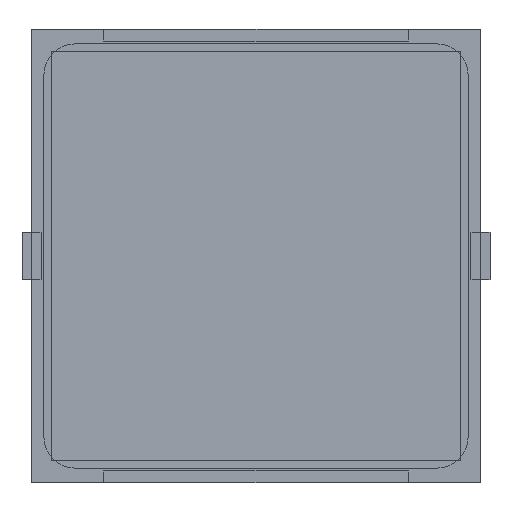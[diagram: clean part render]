
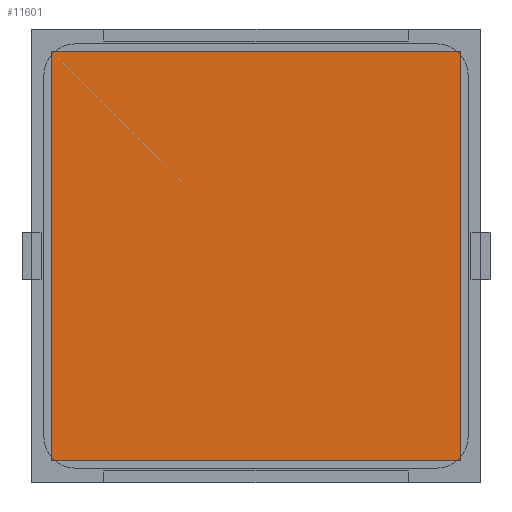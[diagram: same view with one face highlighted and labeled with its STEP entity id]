
A CAD part, front view. The second image highlights one B-rep face of the part: STEP entity #11601.
In plain terms, the highlighted planar face has unit normal (0, -1, 0).
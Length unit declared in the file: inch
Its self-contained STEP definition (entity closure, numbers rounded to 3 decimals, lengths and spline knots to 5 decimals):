
#136 = ORIENTED_EDGE ( 'NONE', *, *, #9211, .F. ) ;
#159 = CARTESIAN_POINT ( 'NONE',  ( -0.84646, -0.005, 0.84646 ) ) ;
#207 = CARTESIAN_POINT ( 'NONE',  ( -0.84646, -0.005, -0.84646 ) ) ;
#437 = ORIENTED_EDGE ( 'NONE', *, *, #2674, .F. ) ;
#576 = CARTESIAN_POINT ( 'NONE',  ( 0.84646, -0.005, -0.84646 ) ) ;
#580 = VERTEX_POINT ( 'NONE', #5855 ) ;
#1215 = VECTOR ( 'NONE', #7711, 39.37008 ) ;
#1934 = CARTESIAN_POINT ( 'NONE',  ( -0.84646, -0.005, -0.84646 ) ) ;
#2258 = EDGE_CURVE ( 'NONE', #580, #12938, #13141, .T. ) ;
#2367 = CARTESIAN_POINT ( 'NONE',  ( 0.84646, -0.005, 0.84646 ) ) ;
#2391 = ORIENTED_EDGE ( 'NONE', *, *, #2258, .F. ) ;
#2674 = EDGE_CURVE ( 'NONE', #3812, #580, #6799, .T. ) ;
#3596 = LINE ( 'NONE', #4666, #6320 ) ;
#3812 = VERTEX_POINT ( 'NONE', #207 ) ;
#3957 = FACE_OUTER_BOUND ( 'NONE', #4740, .T. ) ;
#4239 = DIRECTION ( 'NONE',  ( -1., 0., 0. ) ) ;
#4666 = CARTESIAN_POINT ( 'NONE',  ( 0.84646, -0.005, -0.84646 ) ) ;
#4740 = EDGE_LOOP ( 'NONE', ( #437, #7627, #136, #2391 ) ) ;
#5009 = EDGE_CURVE ( 'NONE', #8806, #3812, #12549, .T. ) ;
#5210 = PLANE ( 'NONE',  #5256 ) ;
#5256 = AXIS2_PLACEMENT_3D ( 'NONE', #159, #9276, #11269 ) ;
#5855 = CARTESIAN_POINT ( 'NONE',  ( -0.84646, -0.005, 0.84646 ) ) ;
#5930 = CARTESIAN_POINT ( 'NONE',  ( -0.84646, -0.005, 0.84646 ) ) ;
#6320 = VECTOR ( 'NONE', #8723, 39.37008 ) ;
#6799 = LINE ( 'NONE', #1934, #1215 ) ;
#7222 = CARTESIAN_POINT ( 'NONE',  ( -0.84646, -0.005, -0.84646 ) ) ;
#7627 = ORIENTED_EDGE ( 'NONE', *, *, #5009, .F. ) ;
#7711 = DIRECTION ( 'NONE',  ( 0., 0., 1. ) ) ;
#8723 = DIRECTION ( 'NONE',  ( 0., 0., -1. ) ) ;
#8806 = VERTEX_POINT ( 'NONE', #576 ) ;
#9211 = EDGE_CURVE ( 'NONE', #12938, #8806, #3596, .T. ) ;
#9276 = DIRECTION ( 'NONE',  ( 0., 1., 0. ) ) ;
#9872 = DIRECTION ( 'NONE',  ( 1., 0., 0. ) ) ;
#10524 = VECTOR ( 'NONE', #4239, 39.37008 ) ;
#10605 = VECTOR ( 'NONE', #9872, 39.37008 ) ;
#11269 = DIRECTION ( 'NONE',  ( 0., 0., 1. ) ) ;
#11601 = ADVANCED_FACE ( 'NONE', ( #3957 ), #5210, .F. ) ;
#12549 = LINE ( 'NONE', #7222, #10524 ) ;
#12938 = VERTEX_POINT ( 'NONE', #2367 ) ;
#13141 = LINE ( 'NONE', #5930, #10605 ) ;
